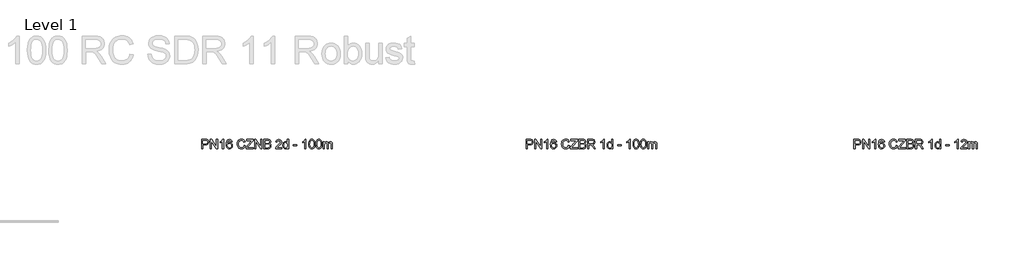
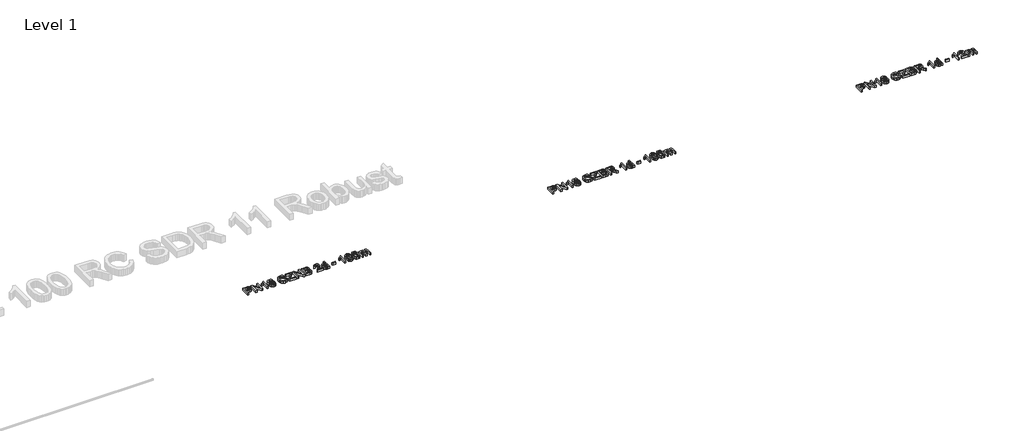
# One storey, part 12 of 13: 3 proxies.
"""IFC4 building model written with IfcOpenShell, lengths in millimetres."""

from ifc_helpers import new_model, si_unit, origin, origin_with_axes, place, context, project, spatial, polyline, outline, extrude, element, save

model = new_model("IFC4")

# Units and contexts
model_context = context("Model", 3, world=origin())
ifc_project = project(units=[si_unit("LENGTHUNIT", "METRE", prefix="MILLI")], contexts=[model_context])

# Site, building, storey
site = spatial("IfcSite", under=ifc_project)
building = spatial("IfcBuilding", under=site)
storey = spatial("IfcBuildingStorey", under=building, Name="Level 1", Elevation=0.0)

# Proxies
placement = place(None, origin())
element("IfcBuildingElementProxy", 1, Name="200mm Arial", ObjectType="200mm Arial", at=placement, inside=storey, context=model_context, shape_type="SweptSolid", body=[
    extrude(outline(polyline([(-8440.6250972, 2161.9491293), (-8440.6250972, 2362.8617496), (-8366.1657813, 2362.8617496), (-8336.1466105, 2360.9487633), (-8311.7437715, 2351.5555097), (-8302.8716841, 2343.2291138), (-8295.9248457, 2332.1313403), (-8291.4366854, 2319.0408726), (-8289.9406319, 2304.7363944), (-8293.9812025, 2281.0570566), (-8306.1029143, 2261.326319), (-8315.8104004, 2253.5578775), (-8328.7705765, 2248.0089907), (-8364.4489987, 2243.5698813), (-8415.5110196, 2243.5698813), (-8415.5110196, 2161.9491293), (-8440.6250972, 2161.9491293)]), holes=[polyline([(-8415.5110196, 2268.6839589), (-8362.9774707, 2268.6839589), (-8340.7083473, 2270.9893527), (-8325.9930675, 2277.9055342), (-8317.789299, 2289.0033077), (-8315.0547095, 2303.8534776), (-8316.6672589, 2315.1351921), (-8321.5049071, 2324.6510731), (-8328.9667803, 2331.8125092), (-8338.4520044, 2336.0308895), (-8363.5660819, 2337.7476721), (-8415.5110196, 2337.7476721), (-8415.5110196, 2268.6839589)])]), origin_with_axes(), (0.0, 0.0, 1.0), 50.0),
    extrude(outline(polyline([(-8255.4087753, 2161.9491293), (-8255.4087753, 2362.8617496), (-8228.5288642, 2362.8617496), (-8123.5598682, 2203.6914731), (-8123.5598682, 2362.8617496), (-8098.4457907, 2362.8617496), (-8098.4457907, 2161.9491293), (-8125.3257018, 2161.9491293), (-8230.2946978, 2321.1684569), (-8230.2946978, 2161.9491293), (-8255.4087753, 2161.9491293)])), origin_with_axes(), (0.0, 0.0, 1.0), 50.0),
    extrude(outline(polyline([(-7969.7361433, 2161.9491293), (-7994.8502209, 2161.9491293), (-7994.8502209, 2318.5197065), (-8018.6399232, 2301.5726092), (-8045.0783759, 2288.8929431), (-8045.0783759, 2312.6335946), (-8008.265651, 2336.1289913), (-7994.7950386, 2349.7038369), (-7985.9229511, 2362.8617496), (-7969.7361433, 2362.8617496), (-7969.7361433, 2161.9491293)])), origin_with_axes(), (0.0, 0.0, 1.0), 50.0),
    extrude(outline(polyline([(-7781.3805618, 2309.4943349), (-7806.4946393, 2306.3550752), (-7816.0105203, 2327.2998234), (-7827.4025994, 2335.1357099), (-7841.1736487, 2337.7476721), (-7863.8351797, 2331.6653565), (-7873.2713528, 2322.057505), (-7880.9784806, 2308.8321473), (-7886.1840109, 2290.1253478), (-7888.1153913, 2264.0731712), (-7878.041556, 2275.8270009), (-7865.9688952, 2284.1104772), (-7852.5718592, 2289.0217018), (-7838.5248984, 2290.6587767), (-7815.3238072, 2286.1828791), (-7795.8505869, 2272.7551863), (-7782.6436233, 2252.2396337), (-7778.2413021, 2226.5001568), (-7780.313704, 2208.5168586), (-7786.5309097, 2191.8456728), (-7796.3778845, 2177.7067415), (-7809.3395934, 2167.3202065), (-7824.8274254, 2160.9374539), (-7842.2527693, 2158.8098696), (-7870.7452298, 2164.4507269), (-7893.4374175, 2181.3732987), (-7902.09644, 2194.4821604), (-7908.281456, 2211.2453167), (-7913.2294689, 2255.7345126), (-7907.7357644, 2305.7542013), (-7900.8686338, 2324.8319484), (-7891.254651, 2339.9549641), (-7880.8343935, 2349.9766828), (-7868.7525357, 2357.1350532), (-7839.6040189, 2362.8617496), (-7817.5678874, 2359.3178198), (-7799.9218144, 2348.6860301), (-7787.5609793, 2331.8002465), (-7781.3805618, 2309.4943349)]), holes=[polyline([(-7888.1153913, 2226.8925642), (-7882.3028558, 2205.1384756), (-7866.851812, 2189.3440752), (-7844.2148066, 2183.9239472), (-7827.6417227, 2186.7321131), (-7814.6125687, 2195.1566108), (-7806.1696769, 2208.4003626), (-7803.3553796, 2225.6662909), (-7806.1328887, 2242.2393748), (-7814.4654159, 2254.8761213), (-7827.7152991, 2262.8775547), (-7845.2448762, 2265.5446992), (-7861.7934346, 2262.8775547), (-7875.631929, 2254.8761213), (-7884.9945257, 2242.5459431), (-7888.1153913, 2226.8925642)])]), origin_with_axes(), (0.0, 0.0, 1.0), 50.0),
    extrude(outline(polyline([(-7527.1005267, 2233.3672873), (-7501.9864492, 2226.8925642), (-7513.574732, 2197.6275515), (-7531.7603653, 2176.2474762), (-7555.6481696, 2163.1692713), (-7584.3429652, 2158.8098696), (-7613.4730878, 2162.1085449), (-7636.606734, 2172.0045705), (-7654.3386461, 2188.1545901), (-7667.2635669, 2210.2152471), (-7675.1546357, 2236.1509278), (-7677.784992, 2263.9260184), (-7674.8112792, 2293.221688), (-7665.8901408, 2318.5197065), (-7651.4875607, 2339.016865), (-7632.0695227, 2353.9099544), (-7609.0401098, 2362.9782456), (-7583.8034049, 2366.0010093), (-7556.2674376, 2362.0891975), (-7533.5016734, 2350.3537618), (-7516.217351, 2331.5182037), (-7505.1257089, 2306.3060242), (-7530.2397864, 2300.3218105), (-7538.946327, 2318.6362025), (-7550.8411782, 2331.1993726), (-7566.0714928, 2338.465042), (-7584.7844236, 2340.8869318), (-7606.3545712, 2338.2013932), (-7624.0742207, 2330.1447775), (-7637.5203076, 2317.5632133), (-7646.2697677, 2301.3028291), (-7651.0706277, 2282.9209921), (-7652.6709144, 2263.9750693), (-7650.7763221, 2240.7739782), (-7645.0925453, 2220.7121467), (-7635.4049861, 2204.5559957), (-7621.4990467, 2193.0719461), (-7604.8278609, 2186.2109469), (-7586.8445628, 2183.9239472), (-7565.8814204, 2187.0386814), (-7548.413157, 2196.3828841), (-7535.2245875, 2211.8584534), (-7527.1005267, 2233.3672873)])), origin_with_axes(), (0.0, 0.0, 1.0), 50.0),
    extrude(outline(polyline([(-7483.150891, 2161.9491293), (-7483.150891, 2187.9951746), (-7380.3891871, 2313.810817), (-7360.8669158, 2337.7476721), (-7470.5938523, 2337.7476721), (-7470.5938523, 2362.8617496), (-7329.3271661, 2362.8617496), (-7329.3271661, 2337.7476721), (-7441.8009548, 2200.061704), (-7452.3959562, 2187.0632069), (-7326.1879064, 2187.0632069), (-7326.1879064, 2161.9491293), (-7483.150891, 2161.9491293)])), origin_with_axes(), (0.0, 0.0, 1.0), 50.0),
    extrude(outline(polyline([(-7297.9345692, 2161.9491293), (-7297.9345692, 2362.8617496), (-7271.0546581, 2362.8617496), (-7166.0856621, 2203.6914731), (-7166.0856621, 2362.8617496), (-7140.9715846, 2362.8617496), (-7140.9715846, 2161.9491293), (-7167.8514957, 2161.9491293), (-7272.8204917, 2321.1684569), (-7272.8204917, 2161.9491293), (-7297.9345692, 2161.9491293)])), origin_with_axes(), (0.0, 0.0, 1.0), 50.0),
    extrude(outline(polyline([(-7097.0219489, 2161.9491293), (-7097.0219489, 2362.8617496), (-7020.3553411, 2362.8617496), (-6999.2695714, 2361.3840903), (-6982.8068521, 2356.9511123), (-6970.1884997, 2349.4524509), (-6960.6358306, 2338.7777417), (-6954.6209599, 2326.2207029), (-6952.6160031, 2313.075053), (-6954.3021289, 2300.9778667), (-6959.3605063, 2289.6041817), (-6967.8279236, 2279.6529737), (-6979.7411688, 2271.8232186), (-6965.510267, 2264.3920023), (-6954.9949733, 2253.0857623), (-6948.5018561, 2238.6525253), (-6946.3374837, 2221.8403182), (-6952.2481211, 2194.8377797), (-6966.8898245, 2175.6098141), (-6988.742015, 2165.4072201), (-7020.9439523, 2161.9491293), (-7097.0219489, 2161.9491293)]), holes=[polyline([(-7071.9078714, 2187.0632069), (-7020.404392, 2187.0632069), (-7001.7650376, 2188.0442255), (-6985.9951628, 2193.5134045), (-6975.5473141, 2204.6724917), (-6971.4515612, 2221.5950635), (-6976.2585526, 2241.1173347), (-6982.5554661, 2248.1745376), (-6991.8322238, 2252.7669312), (-7022.8569387, 2256.1269201), (-7071.9078714, 2256.1269201), (-7071.9078714, 2187.0632069)]), polyline([(-7071.9078714, 2281.2409976), (-7026.0452493, 2281.2409976), (-6999.2634401, 2283.3992387), (-6983.1502087, 2292.6943904), (-6977.7300806, 2309.0528765), (-6982.7823267, 2325.435888), (-6997.2523518, 2335.1234472), (-7029.5278655, 2337.7476721), (-7071.9078714, 2337.7476721), (-7071.9078714, 2281.2409976)])]), origin_with_axes(), (0.0, 0.0, 1.0), 50.0),
    extrude(outline(polyline([(-6714.0322665, 2187.0632069), (-6714.0322665, 2161.9491293), (-6845.8811735, 2161.9491293), (-6843.1833722, 2179.2641086), (-6827.9285322, 2205.9232905), (-6796.4868843, 2235.0350191), (-6753.1258598, 2276.8754646), (-6744.9956677, 2291.2964388), (-6742.2856037, 2305.3250056), (-6744.8423836, 2317.9004385), (-6752.5127232, 2328.3544185), (-6764.3033411, 2335.3993587), (-6779.220956, 2337.7476721), (-6794.8865976, 2335.454541), (-6807.0573603, 2328.5751477), (-6814.9116409, 2317.6490524), (-6817.6278363, 2303.2158155), (-6842.7419138, 2306.3550752), (-6836.6534668, 2330.6475496), (-6823.4894228, 2348.3917245), (-6803.9364947, 2359.2442434), (-6778.6813957, 2362.8617496), (-6753.2423558, 2358.8395732), (-6733.7262159, 2346.7730437), (-6721.3101986, 2328.746826), (-6717.1715262, 2306.8455845), (-6721.635161, 2283.0313567), (-6736.4730682, 2258.4077885), (-6772.4519273, 2223.9985592), (-6801.3429266, 2199.8409748), (-6812.6736921, 2187.0632069), (-6714.0322665, 2187.0632069)])), origin_with_axes(), (0.0, 0.0, 1.0), 50.0),
    extrude(outline(polyline([(-6591.6011385, 2161.9491293), (-6591.6011385, 2185.6407298), (-6599.1151282, 2173.9022285), (-6608.2171419, 2165.5175847), (-6618.9071796, 2160.4867984), (-6631.1852411, 2158.8098696), (-6647.4210999, 2161.2378908), (-6662.2835325, 2168.5219543), (-6674.8650967, 2180.1531567), (-6684.2583503, 2195.6225946), (-6690.107674, 2214.3048686), (-6692.0574486, 2235.5745793), (-6690.2609582, 2256.5806412), (-6684.871487, 2275.5510895), (-6675.8951663, 2291.4068034), (-6663.3381275, 2303.0686627), (-6648.1507325, 2310.2423616), (-6631.283343, 2312.6335946), (-6618.9960844, 2310.9229433), (-6608.1313028, 2305.7909895), (-6591.6011385, 2288.0100264), (-6591.6011385, 2362.8617496), (-6566.4870609, 2362.8617496), (-6566.4870609, 2161.9491293), (-6591.6011385, 2161.9491293)]), holes=[polyline([(-6666.9433711, 2235.6726812), (-6664.1106797, 2212.955968), (-6655.6126056, 2196.799817), (-6643.2640333, 2187.1429146), (-6628.8798473, 2183.9239472), (-6614.5017927, 2186.9957618), (-6602.4659201, 2196.2112058), (-6594.3173339, 2211.7419574), (-6591.6011385, 2233.7596948), (-6594.3663848, 2257.83144), (-6602.6621238, 2274.5210199), (-6615.0045647, 2284.2698927), (-6629.9099169, 2287.519517), (-6644.4412557, 2284.3986514), (-6656.3483696, 2275.0360547), (-6664.2946207, 2258.9534801), (-6666.9433711, 2235.6726812)])]), origin_with_axes(), (0.0, 0.0, 1.0), 50.0),
    extrude(outline(polyline([(-6462.8914911, 2221.5950635), (-6462.8914911, 2246.709141), (-6384.4099988, 2246.709141), (-6384.4099988, 2221.5950635), (-6462.8914911, 2221.5950635)])), origin_with_axes(), (0.0, 0.0, 1.0), 50.0),
    extrude(outline(polyline([(-6189.7758979, 2161.9491293), (-6214.8899754, 2161.9491293), (-6214.8899754, 2318.5197065), (-6238.6796778, 2301.5726092), (-6265.1181305, 2288.8929431), (-6265.1181305, 2312.6335946), (-6228.3054055, 2336.1289913), (-6214.8347931, 2349.7038369), (-6205.9627057, 2362.8617496), (-6189.7758979, 2362.8617496), (-6189.7758979, 2161.9491293)])), origin_with_axes(), (0.0, 0.0, 1.0), 50.0),
    extrude(outline(polyline([(-6130.1299637, 2260.7867587), (-6128.2844224, 2292.9457765), (-6122.7477983, 2318.5932829), (-6113.5752739, 2338.1216855), (-6100.8220314, 2351.9233917), (-6084.3961003, 2360.1271601), (-6064.2055102, 2362.8617496), (-6048.7299409, 2361.2430689), (-6034.8730524, 2356.3870265), (-6023.2847696, 2348.483695), (-6014.6150172, 2337.7231466), (-6002.8427934, 2307.9982814), (-5998.2810566, 2260.7867587), (-6000.1082039, 2228.811682), (-6005.5896456, 2203.2254892), (-6014.7069877, 2183.6786925), (-6027.4418361, 2169.821804), (-6043.9045554, 2161.5628532), (-6064.2055102, 2158.8098696), (-6090.3006064, 2163.5923356), (-6110.1171832, 2177.9397334), (-6118.8727747, 2193.0688805), (-6125.1267686, 2211.919767), (-6130.1299637, 2260.7867587)]), holes=[polyline([(-6105.0158862, 2260.8358096), (-6102.0728302, 2221.3314147), (-6093.2436623, 2198.4675487), (-6080.0980124, 2187.5598476), (-6064.2055102, 2183.9239472), (-6048.313008, 2187.5721103), (-6035.167358, 2198.5165997), (-6026.3381901, 2221.3927284), (-6023.3951342, 2260.8358096), (-6026.2400883, 2299.4511564), (-6034.7749506, 2322.492832), (-6047.8960751, 2333.9339621), (-6064.4998158, 2337.7476721), (-6080.2206397, 2334.3876832), (-6092.8512549, 2324.3077165), (-6101.9747284, 2299.8313011), (-6105.0158862, 2260.8358096)])]), origin_with_axes(), (0.0, 0.0, 1.0), 50.0),
    extrude(outline(polyline([(-5976.3062388, 2260.7867587), (-5974.4606975, 2292.9457765), (-5968.9240734, 2318.5932829), (-5959.751549, 2338.1216855), (-5946.9983065, 2351.9233917), (-5930.5723754, 2360.1271601), (-5910.3817853, 2362.8617496), (-5894.906216, 2361.2430689), (-5881.0493275, 2356.3870265), (-5869.4610447, 2348.483695), (-5860.7912923, 2337.7231466), (-5849.0190685, 2307.9982814), (-5844.4573317, 2260.7867587), (-5846.284479, 2228.811682), (-5851.7659207, 2203.2254892), (-5860.8832628, 2183.6786925), (-5873.6181112, 2169.821804), (-5890.0808305, 2161.5628532), (-5910.3817853, 2158.8098696), (-5936.4768815, 2163.5923356), (-5956.2934583, 2177.9397334), (-5965.0490497, 2193.0688805), (-5971.3030437, 2211.919767), (-5976.3062388, 2260.7867587)]), holes=[polyline([(-5951.1921613, 2260.8358096), (-5948.2491053, 2221.3314147), (-5939.4199374, 2198.4675487), (-5926.2742875, 2187.5598476), (-5910.3817853, 2183.9239472), (-5894.4892831, 2187.5721103), (-5881.3436331, 2198.5165997), (-5872.5144652, 2221.3927284), (-5869.5714093, 2260.8358096), (-5872.4163634, 2299.4511564), (-5880.9512256, 2322.492832), (-5894.0723501, 2333.9339621), (-5910.6760909, 2337.7476721), (-5926.3969148, 2334.3876832), (-5939.02753, 2324.3077165), (-5948.1510034, 2299.8313011), (-5951.1921613, 2260.8358096)])]), origin_with_axes(), (0.0, 0.0, 1.0), 50.0),
    extrude(outline(polyline([(-5816.2039945, 2161.9491293), (-5816.2039945, 2309.4943349), (-5791.089917, 2309.4943349), (-5791.089917, 2285.2141232), (-5783.5360733, 2296.367079), (-5773.8239887, 2305.1042764), (-5762.2847567, 2310.751265), (-5749.2494714, 2312.6335946), (-5735.2822183, 2310.7144768), (-5724.0863429, 2304.9571236), (-5715.7231589, 2295.7416796), (-5710.2539799, 2283.4482896), (-5701.0998496, 2296.2168605), (-5690.6581323, 2305.3372683), (-5678.928828, 2310.809513), (-5665.9119367, 2312.6335946), (-5647.033459, 2309.5985681), (-5633.0723373, 2300.4934887), (-5624.4455045, 2285.0731018), (-5621.5698936, 2263.0921525), (-5621.5698936, 2161.9491293), (-5646.6839711, 2161.9491293), (-5646.6839711, 2252.3009474), (-5649.0138904, 2273.2702211), (-5657.4506508, 2283.5954424), (-5671.7980487, 2287.519517), (-5685.4035511, 2285.0056567), (-5696.4951933, 2277.4640758), (-5703.8712273, 2264.3797395), (-5706.3299053, 2245.237613), (-5706.3299053, 2161.9491293), (-5731.4439828, 2161.9491293), (-5731.4439828, 2255.0968505), (-5732.8971167, 2269.2970955), (-5737.2565183, 2279.4261131), (-5744.9268579, 2285.4961661), (-5756.3128057, 2287.519517), (-5774.9031092, 2282.1239144), (-5782.2607491, 2275.4775131), (-5787.2639442, 2266.3295141), (-5791.089917, 2236.3593942), (-5791.089917, 2161.9491293), (-5816.2039945, 2161.9491293)])), origin_with_axes(), (0.0, 0.0, 1.0), 50.0),
])
element("IfcBuildingElementProxy", 2, Name="200mm Arial", ObjectType="200mm Arial", at=placement, inside=storey, context=model_context, shape_type="SweptSolid", body=[
    extrude(outline(polyline([(-1440.6250972, 2161.9491293), (-1440.6250972, 2362.8617496), (-1366.1657813, 2362.8617496), (-1336.1466105, 2360.9487633), (-1311.7437715, 2351.5555097), (-1302.8716841, 2343.2291138), (-1295.9248457, 2332.1313403), (-1291.4366854, 2319.0408726), (-1289.9406319, 2304.7363944), (-1293.9812025, 2281.0570566), (-1306.1029143, 2261.326319), (-1315.8104004, 2253.5578775), (-1328.7705765, 2248.0089907), (-1364.4489987, 2243.5698813), (-1415.5110196, 2243.5698813), (-1415.5110196, 2161.9491293), (-1440.6250972, 2161.9491293)]), holes=[polyline([(-1415.5110196, 2268.6839589), (-1362.9774707, 2268.6839589), (-1340.7083473, 2270.9893527), (-1325.9930675, 2277.9055342), (-1317.789299, 2289.0033077), (-1315.0547095, 2303.8534776), (-1316.6672589, 2315.1351921), (-1321.5049071, 2324.6510731), (-1328.9667803, 2331.8125092), (-1338.4520044, 2336.0308895), (-1363.5660819, 2337.7476721), (-1415.5110196, 2337.7476721), (-1415.5110196, 2268.6839589)])]), origin_with_axes(), (0.0, 0.0, 1.0), 50.0),
    extrude(outline(polyline([(-1255.4087753, 2161.9491293), (-1255.4087753, 2362.8617496), (-1228.5288642, 2362.8617496), (-1123.5598682, 2203.6914731), (-1123.5598682, 2362.8617496), (-1098.4457907, 2362.8617496), (-1098.4457907, 2161.9491293), (-1125.3257018, 2161.9491293), (-1230.2946978, 2321.1684569), (-1230.2946978, 2161.9491293), (-1255.4087753, 2161.9491293)])), origin_with_axes(), (0.0, 0.0, 1.0), 50.0),
    extrude(outline(polyline([(-969.7361433, 2161.9491293), (-994.8502209, 2161.9491293), (-994.8502209, 2318.5197065), (-1018.6399232, 2301.5726092), (-1045.0783759, 2288.8929431), (-1045.0783759, 2312.6335946), (-1008.265651, 2336.1289913), (-994.7950386, 2349.7038369), (-985.9229511, 2362.8617496), (-969.7361433, 2362.8617496), (-969.7361433, 2161.9491293)])), origin_with_axes(), (0.0, 0.0, 1.0), 50.0),
    extrude(outline(polyline([(-781.3805618, 2309.4943349), (-806.4946393, 2306.3550752), (-816.0105203, 2327.2998234), (-827.4025994, 2335.1357099), (-841.1736487, 2337.7476721), (-863.8351797, 2331.6653565), (-873.2713528, 2322.057505), (-880.9784806, 2308.8321473), (-886.1840109, 2290.1253478), (-888.1153913, 2264.0731712), (-878.041556, 2275.8270009), (-865.9688952, 2284.1104772), (-852.5718592, 2289.0217018), (-838.5248984, 2290.6587767), (-815.3238072, 2286.1828791), (-795.8505869, 2272.7551863), (-782.6436233, 2252.2396337), (-778.2413021, 2226.5001568), (-780.313704, 2208.5168586), (-786.5309097, 2191.8456728), (-796.3778845, 2177.7067415), (-809.3395934, 2167.3202065), (-824.8274254, 2160.9374539), (-842.2527693, 2158.8098696), (-870.7452298, 2164.4507269), (-893.4374175, 2181.3732987), (-902.09644, 2194.4821604), (-908.281456, 2211.2453167), (-913.2294689, 2255.7345126), (-907.7357644, 2305.7542013), (-900.8686338, 2324.8319484), (-891.254651, 2339.9549641), (-880.8343935, 2349.9766828), (-868.7525357, 2357.1350532), (-839.6040189, 2362.8617496), (-817.5678874, 2359.3178198), (-799.9218144, 2348.6860301), (-787.5609793, 2331.8002465), (-781.3805618, 2309.4943349)]), holes=[polyline([(-888.1153913, 2226.8925642), (-882.3028558, 2205.1384756), (-866.851812, 2189.3440752), (-844.2148066, 2183.9239472), (-827.6417227, 2186.7321131), (-814.6125687, 2195.1566108), (-806.1696769, 2208.4003626), (-803.3553796, 2225.6662909), (-806.1328887, 2242.2393748), (-814.4654159, 2254.8761213), (-827.7152991, 2262.8775547), (-845.2448762, 2265.5446992), (-861.7934346, 2262.8775547), (-875.631929, 2254.8761213), (-884.9945257, 2242.5459431), (-888.1153913, 2226.8925642)])]), origin_with_axes(), (0.0, 0.0, 1.0), 50.0),
    extrude(outline(polyline([(-527.1005267, 2233.3672873), (-501.9864492, 2226.8925642), (-513.574732, 2197.6275515), (-531.7603653, 2176.2474762), (-555.6481696, 2163.1692713), (-584.3429652, 2158.8098696), (-613.4730878, 2162.1085449), (-636.606734, 2172.0045705), (-654.3386461, 2188.1545901), (-667.2635669, 2210.2152471), (-675.1546357, 2236.1509278), (-677.784992, 2263.9260184), (-674.8112792, 2293.221688), (-665.8901408, 2318.5197065), (-651.4875607, 2339.016865), (-632.0695227, 2353.9099544), (-609.0401098, 2362.9782456), (-583.8034049, 2366.0010093), (-556.2674376, 2362.0891975), (-533.5016734, 2350.3537618), (-516.217351, 2331.5182037), (-505.1257089, 2306.3060242), (-530.2397864, 2300.3218105), (-538.946327, 2318.6362025), (-550.8411782, 2331.1993726), (-566.0714928, 2338.465042), (-584.7844236, 2340.8869318), (-606.3545712, 2338.2013932), (-624.0742207, 2330.1447775), (-637.5203076, 2317.5632133), (-646.2697677, 2301.3028291), (-651.0706277, 2282.9209921), (-652.6709144, 2263.9750693), (-650.7763221, 2240.7739782), (-645.0925453, 2220.7121467), (-635.4049861, 2204.5559957), (-621.4990467, 2193.0719461), (-604.8278609, 2186.2109469), (-586.8445628, 2183.9239472), (-565.8814204, 2187.0386814), (-548.413157, 2196.3828841), (-535.2245875, 2211.8584534), (-527.1005267, 2233.3672873)])), origin_with_axes(), (0.0, 0.0, 1.0), 50.0),
    extrude(outline(polyline([(-483.150891, 2161.9491293), (-483.150891, 2187.9951746), (-380.3891871, 2313.810817), (-360.8669158, 2337.7476721), (-470.5938523, 2337.7476721), (-470.5938523, 2362.8617496), (-329.3271661, 2362.8617496), (-329.3271661, 2337.7476721), (-441.8009548, 2200.061704), (-452.3959562, 2187.0632069), (-326.1879064, 2187.0632069), (-326.1879064, 2161.9491293), (-483.150891, 2161.9491293)])), origin_with_axes(), (0.0, 0.0, 1.0), 50.0),
    extrude(outline(polyline([(-297.9345692, 2161.9491293), (-297.9345692, 2362.8617496), (-221.2679614, 2362.8617496), (-200.1821917, 2361.3840903), (-183.7194724, 2356.9511123), (-171.10112, 2349.4524509), (-161.5484509, 2338.7777417), (-155.5335802, 2326.2207029), (-153.5286234, 2313.075053), (-155.2147492, 2300.9778667), (-160.2731266, 2289.6041817), (-168.7405439, 2279.6529737), (-180.6537891, 2271.8232186), (-166.4228873, 2264.3920023), (-155.9075936, 2253.0857623), (-149.4144764, 2238.6525253), (-147.250104, 2221.8403182), (-153.1607414, 2194.8377797), (-167.8024448, 2175.6098141), (-189.6546353, 2165.4072201), (-221.8565726, 2161.9491293), (-297.9345692, 2161.9491293)]), holes=[polyline([(-272.8204917, 2281.2409976), (-226.9578696, 2281.2409976), (-200.1760604, 2283.3992387), (-184.062829, 2292.6943904), (-178.6427009, 2309.0528765), (-183.694947, 2325.435888), (-198.1649721, 2335.1234472), (-230.4404858, 2337.7476721), (-272.8204917, 2337.7476721), (-272.8204917, 2281.2409976)]), polyline([(-272.8204917, 2187.0632069), (-221.3170123, 2187.0632069), (-202.6776579, 2188.0442255), (-186.9077831, 2193.5134045), (-176.4599344, 2204.6724917), (-172.3641815, 2221.5950635), (-177.1711729, 2241.1173347), (-183.4680864, 2248.1745376), (-192.7448441, 2252.7669312), (-223.769559, 2256.1269201), (-272.8204917, 2256.1269201), (-272.8204917, 2187.0632069)])]), origin_with_axes(), (0.0, 0.0, 1.0), 50.0),
    extrude(outline(polyline([(-112.7182474, 2161.9491293), (-112.7182474, 2362.8617496), (-26.1433512, 2362.8617496), (-2.874815, 2361.5067176), (14.0538882, 2357.4416216), (26.4269859, 2349.9368289), (36.028706, 2338.2627069), (42.1907294, 2323.7865504), (44.2447372, 2307.8756541), (40.8418288, 2288.0836028), (30.6331034, 2271.6760658), (13.3119928, 2259.6463245), (-11.4280714, 2252.9876604), (2.8457501, 2242.2455062), (23.2018871, 2216.3956646), (56.7036741, 2161.9491293), (27.5183692, 2161.9491293), (1.3742221, 2203.5933712), (-17.510387, 2231.1599954), (-30.7786643, 2244.183018), (-42.7225664, 2248.9654839), (-57.2906934, 2249.8484007), (-87.6041698, 2249.8484007), (-87.6041698, 2161.9491293), (-112.7182474, 2161.9491293)]), holes=[polyline([(-87.6041698, 2274.9624783), (-31.391801, 2274.9624783), (-2.7215308, 2278.5186709), (6.708511, 2283.1417213), (13.5633788, 2289.8984873), (19.1306597, 2306.9436864), (16.475778, 2319.1941568), (8.5111328, 2329.065657), (-5.1924715, 2335.5771683), (-25.0642306, 2337.7476721), (-87.6041698, 2337.7476721), (-87.6041698, 2274.9624783)])]), origin_with_axes(), (0.0, 0.0, 1.0), 50.0),
    extrude(outline(polyline([(251.4358769, 2161.9491293), (226.3217994, 2161.9491293), (226.3217994, 2318.5197065), (202.532097, 2301.5726092), (176.0936443, 2288.8929431), (176.0936443, 2312.6335946), (212.9063693, 2336.1289913), (226.3769817, 2349.7038369), (235.2490691, 2362.8617496), (251.4358769, 2362.8617496), (251.4358769, 2161.9491293)])), origin_with_axes(), (0.0, 0.0, 1.0), 50.0),
    extrude(outline(polyline([(408.3988615, 2161.9491293), (408.3988615, 2185.6407298), (400.8848718, 2173.9022285), (391.7828581, 2165.5175847), (381.0928204, 2160.4867984), (368.8147589, 2158.8098696), (352.5789001, 2161.2378908), (337.7164675, 2168.5219543), (325.1349033, 2180.1531567), (315.7416497, 2195.6225946), (309.892326, 2214.3048686), (307.9425514, 2235.5745793), (309.7390418, 2256.5806412), (315.128513, 2275.5510895), (324.1048337, 2291.4068034), (336.6618725, 2303.0686627), (351.8492675, 2310.2423616), (368.716657, 2312.6335946), (381.0039156, 2310.9229433), (391.8686972, 2305.7909895), (408.3988615, 2288.0100264), (408.3988615, 2362.8617496), (433.5129391, 2362.8617496), (433.5129391, 2161.9491293), (408.3988615, 2161.9491293)]), holes=[polyline([(333.0566289, 2235.6726812), (335.8893203, 2212.955968), (344.3873944, 2196.799817), (356.7359667, 2187.1429146), (371.1201527, 2183.9239472), (385.4982073, 2186.9957618), (397.5340799, 2196.2112058), (405.6826661, 2211.7419574), (408.3988615, 2233.7596948), (405.6336152, 2257.83144), (397.3378762, 2274.5210199), (384.9954353, 2284.2698927), (370.0900831, 2287.519517), (355.5587443, 2284.3986514), (343.6516304, 2275.0360547), (335.7053793, 2258.9534801), (333.0566289, 2235.6726812)])]), origin_with_axes(), (0.0, 0.0, 1.0), 50.0),
    extrude(outline(polyline([(537.1085089, 2221.5950635), (537.1085089, 2246.709141), (615.5900012, 2246.709141), (615.5900012, 2221.5950635), (537.1085089, 2221.5950635)])), origin_with_axes(), (0.0, 0.0, 1.0), 50.0),
    extrude(outline(polyline([(810.2241021, 2161.9491293), (785.1100246, 2161.9491293), (785.1100246, 2318.5197065), (761.3203222, 2301.5726092), (734.8818695, 2288.8929431), (734.8818695, 2312.6335946), (771.6945945, 2336.1289913), (785.1652069, 2349.7038369), (794.0372943, 2362.8617496), (810.2241021, 2362.8617496), (810.2241021, 2161.9491293)])), origin_with_axes(), (0.0, 0.0, 1.0), 50.0),
    extrude(outline(polyline([(869.8700363, 2260.7867587), (871.7155776, 2292.9457765), (877.2522017, 2318.5932829), (886.4247261, 2338.1216855), (899.1779686, 2351.9233917), (915.6038997, 2360.1271601), (935.7944898, 2362.8617496), (951.2700591, 2361.2430689), (965.1269476, 2356.3870265), (976.7152304, 2348.483695), (985.3849828, 2337.7231466), (997.1572066, 2307.9982814), (1001.7189434, 2260.7867587), (999.8917961, 2228.811682), (994.4103544, 2203.2254892), (985.2930123, 2183.6786925), (972.5581639, 2169.821804), (956.0954446, 2161.5628532), (935.7944898, 2158.8098696), (909.6993936, 2163.5923356), (889.8828168, 2177.9397334), (881.1272253, 2193.0688805), (874.8732314, 2211.919767), (869.8700363, 2260.7867587)]), holes=[polyline([(894.9841138, 2260.8358096), (897.9271698, 2221.3314147), (906.7563377, 2198.4675487), (919.9019876, 2187.5598476), (935.7944898, 2183.9239472), (951.686992, 2187.5721103), (964.832642, 2198.5165997), (973.6618099, 2221.3927284), (976.6048658, 2260.8358096), (973.7599117, 2299.4511564), (965.2250494, 2322.492832), (952.1039249, 2333.9339621), (935.5001842, 2337.7476721), (919.7793603, 2334.3876832), (907.1487451, 2324.3077165), (898.0252716, 2299.8313011), (894.9841138, 2260.8358096)])]), origin_with_axes(), (0.0, 0.0, 1.0), 50.0),
    extrude(outline(polyline([(1023.6937612, 2260.7867587), (1025.5393025, 2292.9457765), (1031.0759266, 2318.5932829), (1040.248451, 2338.1216855), (1053.0016935, 2351.9233917), (1069.4276246, 2360.1271601), (1089.6182147, 2362.8617496), (1105.093784, 2361.2430689), (1118.9506725, 2356.3870265), (1130.5389553, 2348.483695), (1139.2087077, 2337.7231466), (1150.9809315, 2307.9982814), (1155.5426683, 2260.7867587), (1153.715521, 2228.811682), (1148.2340793, 2203.2254892), (1139.1167372, 2183.6786925), (1126.3818888, 2169.821804), (1109.9191695, 2161.5628532), (1089.6182147, 2158.8098696), (1063.5231185, 2163.5923356), (1043.7065417, 2177.9397334), (1034.9509503, 2193.0688805), (1028.6969563, 2211.919767), (1023.6937612, 2260.7867587)]), holes=[polyline([(1048.8078387, 2260.8358096), (1051.7508947, 2221.3314147), (1060.5800626, 2198.4675487), (1073.7257125, 2187.5598476), (1089.6182147, 2183.9239472), (1105.5107169, 2187.5721103), (1118.6563669, 2198.5165997), (1127.4855348, 2221.3927284), (1130.4285907, 2260.8358096), (1127.5836366, 2299.4511564), (1119.0487744, 2322.492832), (1105.9276499, 2333.9339621), (1089.3239091, 2337.7476721), (1073.6030852, 2334.3876832), (1060.97247, 2324.3077165), (1051.8489966, 2299.8313011), (1048.8078387, 2260.8358096)])]), origin_with_axes(), (0.0, 0.0, 1.0), 50.0),
    extrude(outline(polyline([(1183.7960055, 2161.9491293), (1183.7960055, 2309.4943349), (1208.910083, 2309.4943349), (1208.910083, 2285.2141232), (1216.4639267, 2296.367079), (1226.1760113, 2305.1042764), (1237.7152433, 2310.751265), (1250.7505286, 2312.6335946), (1264.7177817, 2310.7144768), (1275.9136571, 2304.9571236), (1284.2768411, 2295.7416796), (1289.7460201, 2283.4482896), (1298.9001504, 2296.2168605), (1309.3418677, 2305.3372683), (1321.071172, 2310.809513), (1334.0880633, 2312.6335946), (1352.966541, 2309.5985681), (1366.9276627, 2300.4934887), (1375.5544955, 2285.0731018), (1378.4301064, 2263.0921525), (1378.4301064, 2161.9491293), (1353.3160289, 2161.9491293), (1353.3160289, 2252.3009474), (1350.9861096, 2273.2702211), (1342.5493492, 2283.5954424), (1328.2019513, 2287.519517), (1314.5964489, 2285.0056567), (1303.5048067, 2277.4640758), (1296.1287727, 2264.3797395), (1293.6700947, 2245.237613), (1293.6700947, 2161.9491293), (1268.5560172, 2161.9491293), (1268.5560172, 2255.0968505), (1267.1028833, 2269.2970955), (1262.7434817, 2279.4261131), (1255.0731421, 2285.4961661), (1243.6871943, 2287.519517), (1225.0968908, 2282.1239144), (1217.7392509, 2275.4775131), (1212.7360558, 2266.3295141), (1208.910083, 2236.3593942), (1208.910083, 2161.9491293), (1183.7960055, 2161.9491293)])), origin_with_axes(), (0.0, 0.0, 1.0), 50.0),
])
element("IfcBuildingElementProxy", 3, Name="200mm Arial", ObjectType="200mm Arial", at=placement, inside=storey, context=model_context, shape_type="SweptSolid", body=[
    extrude(outline(polyline([(5636.2867653, 2161.9491293), (5636.2867653, 2362.8617496), (5710.7460811, 2362.8617496), (5740.7652519, 2360.9487633), (5765.1680909, 2351.5555097), (5774.0401784, 2343.2291138), (5780.9870167, 2332.1313403), (5785.4751771, 2319.0408726), (5786.9712305, 2304.7363944), (5782.9306599, 2281.0570566), (5770.8089482, 2261.326319), (5761.1014621, 2253.5578775), (5748.1412859, 2248.0089907), (5712.4628638, 2243.5698813), (5661.4008428, 2243.5698813), (5661.4008428, 2161.9491293), (5636.2867653, 2161.9491293)]), holes=[polyline([(5661.4008428, 2268.6839589), (5713.9343918, 2268.6839589), (5736.2035152, 2270.9893527), (5750.918795, 2277.9055342), (5759.1225635, 2289.0033077), (5761.857153, 2303.8534776), (5760.2446036, 2315.1351921), (5755.4069553, 2324.6510731), (5747.9450822, 2331.8125092), (5738.4598581, 2336.0308895), (5713.3457806, 2337.7476721), (5661.4008428, 2337.7476721), (5661.4008428, 2268.6839589)])]), origin_with_axes(), (0.0, 0.0, 1.0), 50.0),
    extrude(outline(polyline([(5821.5030871, 2161.9491293), (5821.5030871, 2362.8617496), (5848.3829983, 2362.8617496), (5953.3519942, 2203.6914731), (5953.3519942, 2362.8617496), (5978.4660717, 2362.8617496), (5978.4660717, 2161.9491293), (5951.5861606, 2161.9491293), (5846.6171647, 2321.1684569), (5846.6171647, 2161.9491293), (5821.5030871, 2161.9491293)])), origin_with_axes(), (0.0, 0.0, 1.0), 50.0),
    extrude(outline(polyline([(6107.1757191, 2161.9491293), (6082.0616416, 2161.9491293), (6082.0616416, 2318.5197065), (6058.2719392, 2301.5726092), (6031.8334865, 2288.8929431), (6031.8334865, 2312.6335946), (6068.6462115, 2336.1289913), (6082.1168239, 2349.7038369), (6090.9889113, 2362.8617496), (6107.1757191, 2362.8617496), (6107.1757191, 2161.9491293)])), origin_with_axes(), (0.0, 0.0, 1.0), 50.0),
    extrude(outline(polyline([(6295.5313007, 2309.4943349), (6270.4172231, 2306.3550752), (6260.9013422, 2327.2998234), (6249.5092631, 2335.1357099), (6235.7382137, 2337.7476721), (6213.0766828, 2331.6653565), (6203.6405096, 2322.057505), (6195.9333818, 2308.8321473), (6190.7278516, 2290.1253478), (6188.7964711, 2264.0731712), (6198.8703064, 2275.8270009), (6210.9429672, 2284.1104772), (6224.3400032, 2289.0217018), (6238.3869641, 2290.6587767), (6261.5880552, 2286.1828791), (6281.0612755, 2272.7551863), (6294.2682391, 2252.2396337), (6298.6705604, 2226.5001568), (6296.5981584, 2208.5168586), (6290.3809527, 2191.8456728), (6280.533978, 2177.7067415), (6267.572269, 2167.3202065), (6252.084437, 2160.9374539), (6234.6590932, 2158.8098696), (6206.1666327, 2164.4507269), (6183.4744449, 2181.3732987), (6174.8154225, 2194.4821604), (6168.6304064, 2211.2453167), (6163.6823936, 2255.7345126), (6169.176098, 2305.7542013), (6176.0432286, 2324.8319484), (6185.6572114, 2339.9549641), (6196.0774689, 2349.9766828), (6208.1593268, 2357.1350532), (6237.3078436, 2362.8617496), (6259.3439751, 2359.3178198), (6276.9900481, 2348.6860301), (6289.3508831, 2331.8002465), (6295.5313007, 2309.4943349)]), holes=[polyline([(6188.7964711, 2226.8925642), (6194.6090066, 2205.1384756), (6210.0600504, 2189.3440752), (6232.6970559, 2183.9239472), (6249.2701398, 2186.7321131), (6262.2992938, 2195.1566108), (6270.7421856, 2208.4003626), (6273.5564828, 2225.6662909), (6270.7789737, 2242.2393748), (6262.4464466, 2254.8761213), (6249.1965634, 2262.8775547), (6231.6669863, 2265.5446992), (6215.1184279, 2262.8775547), (6201.2799335, 2254.8761213), (6191.9173367, 2242.5459431), (6188.7964711, 2226.8925642)])]), origin_with_axes(), (0.0, 0.0, 1.0), 50.0),
    extrude(outline(polyline([(6549.8113357, 2233.3672873), (6574.9254133, 2226.8925642), (6563.3371304, 2197.6275515), (6545.1514971, 2176.2474762), (6521.2636929, 2163.1692713), (6492.5688973, 2158.8098696), (6463.4387746, 2162.1085449), (6440.3051285, 2172.0045705), (6422.5732163, 2188.1545901), (6409.6482956, 2210.2152471), (6401.7572268, 2236.1509278), (6399.1268705, 2263.9260184), (6402.1005833, 2293.221688), (6411.0217217, 2318.5197065), (6425.4243018, 2339.016865), (6444.8423398, 2353.9099544), (6467.8717527, 2362.9782456), (6493.1084575, 2366.0010093), (6520.6444249, 2362.0891975), (6543.410189, 2350.3537618), (6560.6945114, 2331.5182037), (6571.7861536, 2306.3060242), (6546.672076, 2300.3218105), (6537.9655355, 2318.6362025), (6526.0706843, 2331.1993726), (6510.8403697, 2338.465042), (6492.1274389, 2340.8869318), (6470.5572912, 2338.2013932), (6452.8376418, 2330.1447775), (6439.3915549, 2317.5632133), (6430.6420948, 2301.3028291), (6425.8412347, 2282.9209921), (6424.240948, 2263.9750693), (6426.1355403, 2240.7739782), (6431.8193171, 2220.7121467), (6441.5068763, 2204.5559957), (6455.4128158, 2193.0719461), (6472.0840015, 2186.2109469), (6490.0672997, 2183.9239472), (6511.0304421, 2187.0386814), (6528.4987055, 2196.3828841), (6541.687275, 2211.8584534), (6549.8113357, 2233.3672873)])), origin_with_axes(), (0.0, 0.0, 1.0), 50.0),
    extrude(outline(polyline([(6593.7609714, 2161.9491293), (6593.7609714, 2187.9951746), (6696.5226754, 2313.810817), (6716.0449466, 2337.7476721), (6606.3180102, 2337.7476721), (6606.3180102, 2362.8617496), (6747.5846963, 2362.8617496), (6747.5846963, 2337.7476721), (6635.1109077, 2200.061704), (6624.5159062, 2187.0632069), (6750.723956, 2187.0632069), (6750.723956, 2161.9491293), (6593.7609714, 2161.9491293)])), origin_with_axes(), (0.0, 0.0, 1.0), 50.0),
    extrude(outline(polyline([(6778.9772933, 2161.9491293), (6778.9772933, 2362.8617496), (6855.643901, 2362.8617496), (6876.7296707, 2361.3840903), (6893.19239, 2356.9511123), (6905.8107425, 2349.4524509), (6915.3634116, 2338.7777417), (6921.3782822, 2326.2207029), (6923.3832391, 2313.075053), (6921.6971133, 2300.9778667), (6916.6387358, 2289.6041817), (6908.1713186, 2279.6529737), (6896.2580733, 2271.8232186), (6910.4889752, 2264.3920023), (6921.0042689, 2253.0857623), (6927.4973861, 2238.6525253), (6929.6617585, 2221.8403182), (6923.7511211, 2194.8377797), (6909.1094177, 2175.6098141), (6887.2572272, 2165.4072201), (6855.0552899, 2161.9491293), (6778.9772933, 2161.9491293)]), holes=[polyline([(6804.0913708, 2281.2409976), (6849.9539929, 2281.2409976), (6876.7358021, 2283.3992387), (6892.8490335, 2292.6943904), (6898.2691616, 2309.0528765), (6893.2169155, 2325.435888), (6878.7468903, 2335.1234472), (6846.4713766, 2337.7476721), (6804.0913708, 2337.7476721), (6804.0913708, 2281.2409976)]), polyline([(6804.0913708, 2187.0632069), (6855.5948501, 2187.0632069), (6874.2342045, 2188.0442255), (6890.0040794, 2193.5134045), (6900.4519281, 2204.6724917), (6904.5476809, 2221.5950635), (6899.7406895, 2241.1173347), (6893.4437761, 2248.1745376), (6884.1670184, 2252.7669312), (6853.1423035, 2256.1269201), (6804.0913708, 2256.1269201), (6804.0913708, 2187.0632069)])]), origin_with_axes(), (0.0, 0.0, 1.0), 50.0),
    extrude(outline(polyline([(6964.1936151, 2161.9491293), (6964.1936151, 2362.8617496), (7050.7685113, 2362.8617496), (7074.0370475, 2361.5067176), (7090.9657506, 2357.4416216), (7103.3388484, 2349.9368289), (7112.9405685, 2338.2627069), (7119.1025919, 2323.7865504), (7121.1565997, 2307.8756541), (7117.7536912, 2288.0836028), (7107.5449659, 2271.6760658), (7090.2238553, 2259.6463245), (7065.4837911, 2252.9876604), (7079.7576125, 2242.2455062), (7100.1137496, 2216.3956646), (7133.6155366, 2161.9491293), (7104.4302317, 2161.9491293), (7078.2860845, 2203.5933712), (7059.4014754, 2231.1599954), (7046.1331982, 2244.183018), (7034.189296, 2248.9654839), (7019.621169, 2249.8484007), (6989.3076926, 2249.8484007), (6989.3076926, 2161.9491293), (6964.1936151, 2161.9491293)]), holes=[polyline([(6989.3076926, 2274.9624783), (7045.5200615, 2274.9624783), (7074.1903316, 2278.5186709), (7083.6203735, 2283.1417213), (7090.4752413, 2289.8984873), (7096.0425222, 2306.9436864), (7093.3876404, 2319.1941568), (7085.4229952, 2329.065657), (7071.7193909, 2335.5771683), (7051.8476318, 2337.7476721), (6989.3076926, 2337.7476721), (6989.3076926, 2274.9624783)])]), origin_with_axes(), (0.0, 0.0, 1.0), 50.0),
    extrude(outline(polyline([(7328.3477394, 2161.9491293), (7303.2336618, 2161.9491293), (7303.2336618, 2318.5197065), (7279.4439595, 2301.5726092), (7253.0055068, 2288.8929431), (7253.0055068, 2312.6335946), (7289.8182318, 2336.1289913), (7303.2888441, 2349.7038369), (7312.1609316, 2362.8617496), (7328.3477394, 2362.8617496), (7328.3477394, 2161.9491293)])), origin_with_axes(), (0.0, 0.0, 1.0), 50.0),
    extrude(outline(polyline([(7485.310724, 2161.9491293), (7485.310724, 2185.6407298), (7477.7967342, 2173.9022285), (7468.6947205, 2165.5175847), (7458.0046829, 2160.4867984), (7445.7266213, 2158.8098696), (7429.4907626, 2161.2378908), (7414.62833, 2168.5219543), (7402.0467658, 2180.1531567), (7392.6535121, 2195.6225946), (7386.8041884, 2214.3048686), (7384.8544138, 2235.5745793), (7386.6509043, 2256.5806412), (7392.0403755, 2275.5510895), (7401.0166962, 2291.4068034), (7413.5737349, 2303.0686627), (7428.76113, 2310.2423616), (7445.6285194, 2312.6335946), (7457.9157781, 2310.9229433), (7468.7805597, 2305.7909895), (7485.310724, 2288.0100264), (7485.310724, 2362.8617496), (7510.4248015, 2362.8617496), (7510.4248015, 2161.9491293), (7485.310724, 2161.9491293)]), holes=[polyline([(7409.9684914, 2235.6726812), (7412.8011827, 2212.955968), (7421.2992568, 2196.799817), (7433.6478291, 2187.1429146), (7448.0320151, 2183.9239472), (7462.4100698, 2186.9957618), (7474.4459424, 2196.2112058), (7482.5945286, 2211.7419574), (7485.310724, 2233.7596948), (7482.5454777, 2257.83144), (7474.2497387, 2274.5210199), (7461.9072977, 2284.2698927), (7447.0019456, 2287.519517), (7432.4706068, 2284.3986514), (7420.5634928, 2275.0360547), (7412.6172417, 2258.9534801), (7409.9684914, 2235.6726812)])]), origin_with_axes(), (0.0, 0.0, 1.0), 50.0),
    extrude(outline(polyline([(7614.0203714, 2221.5950635), (7614.0203714, 2246.709141), (7692.5018637, 2246.709141), (7692.5018637, 2221.5950635), (7614.0203714, 2221.5950635)])), origin_with_axes(), (0.0, 0.0, 1.0), 50.0),
    extrude(outline(polyline([(7887.1359646, 2161.9491293), (7862.0218871, 2161.9491293), (7862.0218871, 2318.5197065), (7838.2321847, 2301.5726092), (7811.793732, 2288.8929431), (7811.793732, 2312.6335946), (7848.606457, 2336.1289913), (7862.0770694, 2349.7038369), (7870.9491568, 2362.8617496), (7887.1359646, 2362.8617496), (7887.1359646, 2161.9491293)])), origin_with_axes(), (0.0, 0.0, 1.0), 50.0),
    extrude(outline(polyline([(8075.4915461, 2187.0632069), (8075.4915461, 2161.9491293), (7943.6426391, 2161.9491293), (7946.3404403, 2179.2641086), (7961.5952804, 2205.9232905), (7993.0369283, 2235.0350191), (8036.3979528, 2276.8754646), (8044.5281449, 2291.2964388), (8047.2382089, 2305.3250056), (8044.681429, 2317.9004385), (8037.0110894, 2328.3544185), (8025.2204715, 2335.3993587), (8010.3028566, 2337.7476721), (7994.6372149, 2335.454541), (7982.4664523, 2328.5751477), (7974.6121717, 2317.6490524), (7971.8959763, 2303.2158155), (7946.7818987, 2306.3550752), (7952.8703458, 2330.6475496), (7966.0343898, 2348.3917245), (7985.5873179, 2359.2442434), (8010.8424168, 2362.8617496), (8036.2814568, 2358.8395732), (8055.7975966, 2346.7730437), (8068.213614, 2328.746826), (8072.3522864, 2306.8455845), (8067.8886516, 2283.0313567), (8053.0507444, 2258.4077885), (8017.0718853, 2223.9985592), (7988.1808859, 2199.8409748), (7976.8501205, 2187.0632069), (8075.4915461, 2187.0632069)])), origin_with_axes(), (0.0, 0.0, 1.0), 50.0),
    extrude(outline(polyline([(8106.884143, 2161.9491293), (8106.884143, 2309.4943349), (8131.9982206, 2309.4943349), (8131.9982206, 2285.2141232), (8139.5520642, 2296.367079), (8149.2641489, 2305.1042764), (8160.8033808, 2310.751265), (8173.8386662, 2312.6335946), (8187.8059192, 2310.7144768), (8199.0017946, 2304.9571236), (8207.3649787, 2295.7416796), (8212.8341577, 2283.4482896), (8221.988288, 2296.2168605), (8232.4300053, 2305.3372683), (8244.1593095, 2310.809513), (8257.1762008, 2312.6335946), (8276.0546785, 2309.5985681), (8290.0158002, 2300.4934887), (8298.642633, 2285.0731018), (8301.518244, 2263.0921525), (8301.518244, 2161.9491293), (8276.4041664, 2161.9491293), (8276.4041664, 2252.3009474), (8274.0742471, 2273.2702211), (8265.6374867, 2283.5954424), (8251.2900889, 2287.519517), (8237.6845864, 2285.0056567), (8226.5929443, 2277.4640758), (8219.2169103, 2264.3797395), (8216.7582323, 2245.237613), (8216.7582323, 2161.9491293), (8191.6441547, 2161.9491293), (8191.6441547, 2255.0968505), (8190.1910209, 2269.2970955), (8185.8316192, 2279.4261131), (8178.1612796, 2285.4961661), (8166.7753319, 2287.519517), (8148.1850284, 2282.1239144), (8140.8273885, 2275.4775131), (8135.8241933, 2266.3295141), (8131.9982206, 2236.3593942), (8131.9982206, 2161.9491293), (8106.884143, 2161.9491293)])), origin_with_axes(), (0.0, 0.0, 1.0), 50.0),
])

save(model, "model.ifc")
